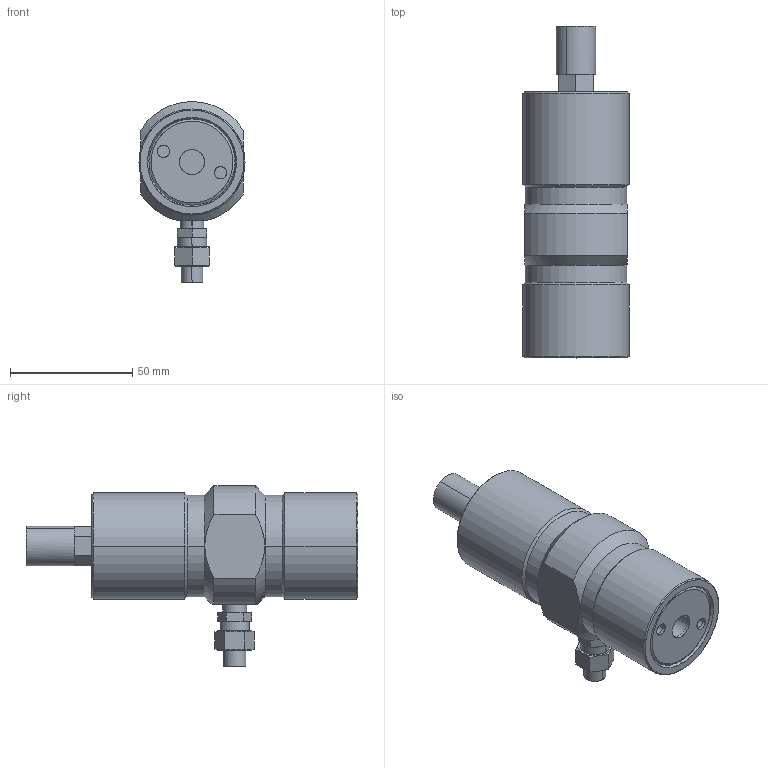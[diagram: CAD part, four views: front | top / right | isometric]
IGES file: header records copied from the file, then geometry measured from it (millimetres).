
Start section: SolidWorks IGES file using analytic representation for surfaces
Global section: file name: V:\WORK\08133\HP 寸法図\piston\EPV25\test_E680000-000_defeature.IGS,15; native system: HSolidWorks 2018; preprocessor: SolidWorks 2018; author: n-udagawa; date: 230118.090516; units: millimetre
Bounding box: 43.5 x 136 x 74.05 mm (x, y, z)
Surface area: 22514 mm2 (no closed solid volume)
Topology: 0 solids, 0 shells, 113 faces, 2138 edges, 2384 vertices
Faces by surface type: revolution 70, bspline 43
